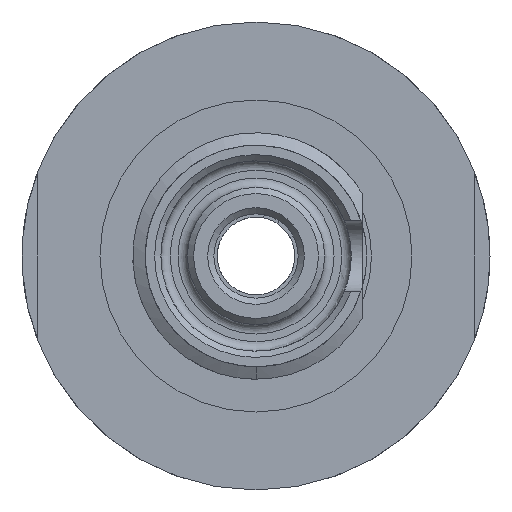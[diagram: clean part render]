
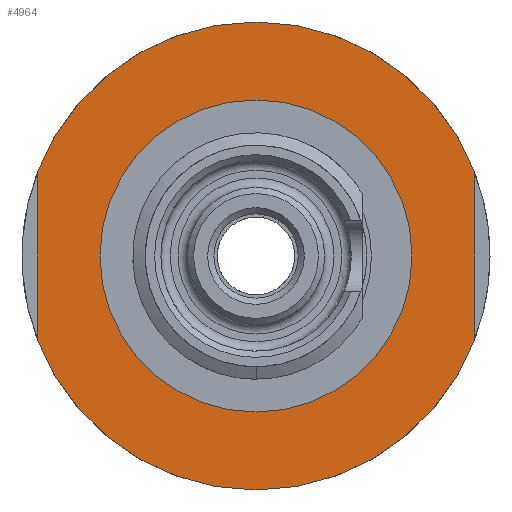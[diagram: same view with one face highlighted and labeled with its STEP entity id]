
A CAD part, left-side view. The second image highlights one B-rep face of the part: STEP entity #4964.
In plain terms, the highlighted planar face has unit normal (-1, 0, 0).
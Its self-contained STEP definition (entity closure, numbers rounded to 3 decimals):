
#232 = DIRECTION ( 'NONE',  ( 0., -1., 0. ) ) ;
#553 = DIRECTION ( 'NONE',  ( 1., 0., 0. ) ) ;
#1738 = AXIS2_PLACEMENT_3D ( 'NONE', #5958, #20264, #16616 ) ;
#2131 = DIRECTION ( 'NONE',  ( 0., -1., 0. ) ) ;
#2173 = EDGE_CURVE ( 'NONE', #14684, #14684, #7961, .T. ) ;
#2247 = CARTESIAN_POINT ( 'NONE',  ( -157.34, 34.679, 16.534 ) ) ;
#3061 = DIRECTION ( 'NONE',  ( 0., 0., 1. ) ) ;
#3835 = CARTESIAN_POINT ( 'NONE',  ( -157.34, 20.679, 11.149 ) ) ;
#4183 = DIRECTION ( 'NONE',  ( 1., 0., 0. ) ) ;
#4544 = EDGE_CURVE ( 'NONE', #20981, #21066, #16557, .T. ) ;
#4964 = ADVANCED_FACE ( 'NONE', ( #9481, #13238 ), #22087, .F. ) ;
#5653 = DIRECTION ( 'NONE',  ( 0., 0., 1. ) ) ;
#5669 = EDGE_LOOP ( 'NONE', ( #12549 ) ) ;
#5958 = CARTESIAN_POINT ( 'NONE',  ( -157.34, 27.679, 6.341 ) ) ;
#7262 = VERTEX_POINT ( 'NONE', #14464 ) ;
#7961 = CIRCLE ( 'NONE', #9084, 5. ) ;
#8474 = CARTESIAN_POINT ( 'NONE',  ( -157.34, 20.679, 16.534 ) ) ;
#9084 = AXIS2_PLACEMENT_3D ( 'NONE', #11155, #16470, #232 ) ;
#9481 = FACE_BOUND ( 'NONE', #5669, .T. ) ;
#9892 = CARTESIAN_POINT ( 'NONE',  ( -157.34, 27.679, 13.841 ) ) ;
#10770 = ORIENTED_EDGE ( 'NONE', *, *, #12357, .F. ) ;
#11155 = CARTESIAN_POINT ( 'NONE',  ( -157.34, 27.679, 13.841 ) ) ;
#11746 = CIRCLE ( 'NONE', #19828, 7.5 ) ;
#12115 = ORIENTED_EDGE ( 'NONE', *, *, #22608, .F. ) ;
#12117 = AXIS2_PLACEMENT_3D ( 'NONE', #17380, #4183, #13404 ) ;
#12223 = CARTESIAN_POINT ( 'NONE',  ( -157.34, 20.679, 11.149 ) ) ;
#12357 = EDGE_CURVE ( 'NONE', #7262, #20101, #22176, .T. ) ;
#12422 = ORIENTED_EDGE ( 'NONE', *, *, #4544, .T. ) ;
#12549 = ORIENTED_EDGE ( 'NONE', *, *, #2173, .T. ) ;
#12613 = CARTESIAN_POINT ( 'NONE',  ( -157.34, 22.679, 13.841 ) ) ;
#13238 = FACE_OUTER_BOUND ( 'NONE', #16064, .T. ) ;
#13404 = DIRECTION ( 'NONE',  ( 0., -1., 0. ) ) ;
#14464 = CARTESIAN_POINT ( 'NONE',  ( -157.34, 34.679, 11.149 ) ) ;
#14522 = ORIENTED_EDGE ( 'NONE', *, *, #22471, .F. ) ;
#14684 = VERTEX_POINT ( 'NONE', #12613 ) ;
#16064 = EDGE_LOOP ( 'NONE', ( #12422, #14522, #10770, #12115 ) ) ;
#16470 = DIRECTION ( 'NONE',  ( 1., 0., 0. ) ) ;
#16557 = LINE ( 'NONE', #3835, #19893 ) ;
#16616 = DIRECTION ( 'NONE',  ( 0., -1., 0. ) ) ;
#17380 = CARTESIAN_POINT ( 'NONE',  ( -157.34, 27.679, 13.841 ) ) ;
#19765 = CARTESIAN_POINT ( 'NONE',  ( -157.34, 34.679, 11.149 ) ) ;
#19828 = AXIS2_PLACEMENT_3D ( 'NONE', #9892, #553, #2131 ) ;
#19893 = VECTOR ( 'NONE', #5653, 1000. ) ;
#20101 = VERTEX_POINT ( 'NONE', #2247 ) ;
#20264 = DIRECTION ( 'NONE',  ( 1., 0., 0. ) ) ;
#20981 = VERTEX_POINT ( 'NONE', #12223 ) ;
#21066 = VERTEX_POINT ( 'NONE', #8474 ) ;
#21913 = VECTOR ( 'NONE', #3061, 1000. ) ;
#22087 = PLANE ( 'NONE',  #1738 ) ;
#22176 = LINE ( 'NONE', #19765, #21913 ) ;
#22471 = EDGE_CURVE ( 'NONE', #20101, #21066, #22574, .T. ) ;
#22574 = CIRCLE ( 'NONE', #12117, 7.5 ) ;
#22608 = EDGE_CURVE ( 'NONE', #20981, #7262, #11746, .T. ) ;
